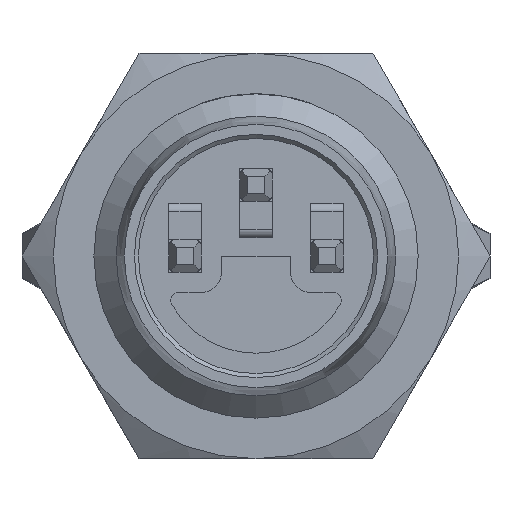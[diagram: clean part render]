
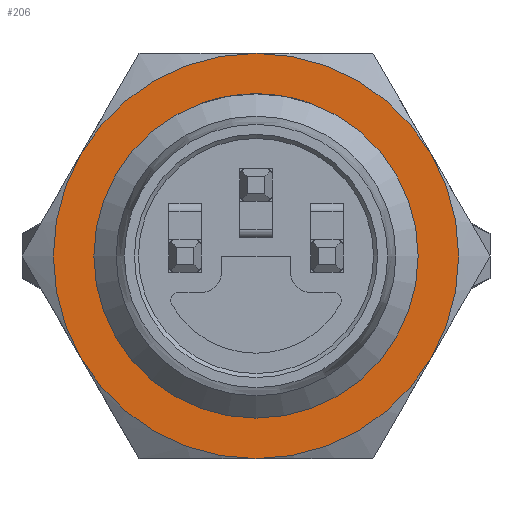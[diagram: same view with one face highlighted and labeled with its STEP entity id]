
A CAD part, left-side view. The second image highlights one B-rep face of the part: STEP entity #206.
In plain terms, the highlighted planar face has unit normal (-1, 0, 0) as drawn and (0, 0, -1) by its records, which use the part's own axes.
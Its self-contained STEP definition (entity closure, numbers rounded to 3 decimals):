
#206 = ADVANCED_FACE( '', ( #451, #452 ), #453, .F. );
#451 = FACE_BOUND( '', #703, .T. );
#452 = FACE_OUTER_BOUND( '', #704, .T. );
#453 = PLANE( '', #705 );
#473 = EDGE_CURVE( '', #725, #725, #726, .T. );
#703 = EDGE_LOOP( '', ( #1520 ) );
#704 = EDGE_LOOP( '', ( #1521, #1522, #1523, #1524, #1525, #1526 ) );
#705 = AXIS2_PLACEMENT_3D( '', #1527, #1528, #1529 );
#725 = VERTEX_POINT( '', #1594 );
#726 = CIRCLE( '', #1595, 3.73 );
#1520 = ORIENTED_EDGE( '', *, *, #473, .T. );
#1521 = ORIENTED_EDGE( '', *, *, #1848, .F. );
#1522 = ORIENTED_EDGE( '', *, *, #1849, .F. );
#1523 = ORIENTED_EDGE( '', *, *, #1850, .F. );
#1524 = ORIENTED_EDGE( '', *, *, #1826, .F. );
#1525 = ORIENTED_EDGE( '', *, *, #1851, .F. );
#1526 = ORIENTED_EDGE( '', *, *, #1852, .F. );
#1527 = CARTESIAN_POINT( '', ( -5., 2.887, -1. ) );
#1528 = DIRECTION( '', ( 0., 0., 1. ) );
#1529 = DIRECTION( '', ( 1., 0., 0. ) );
#1594 = CARTESIAN_POINT( '', ( 3.73, 0., -1. ) );
#1595 = AXIS2_PLACEMENT_3D( '', #1861, #1862, #1863 );
#1826 = EDGE_CURVE( '', #2255, #2257, #2258, .T. );
#1848 = EDGE_CURVE( '', #2291, #2243, #2292, .T. );
#1849 = EDGE_CURVE( '', #2293, #2291, #2294, .T. );
#1850 = EDGE_CURVE( '', #2257, #2293, #2295, .T. );
#1851 = EDGE_CURVE( '', #2296, #2255, #2297, .T. );
#1852 = EDGE_CURVE( '', #2243, #2296, #2298, .T. );
#1861 = CARTESIAN_POINT( '', ( 0., 0., -1. ) );
#1862 = DIRECTION( '', ( 0., 0., 1. ) );
#1863 = DIRECTION( '', ( 1., 0., 0. ) );
#2243 = VERTEX_POINT( '', #2911 );
#2255 = VERTEX_POINT( '', #2945 );
#2257 = VERTEX_POINT( '', #2950 );
#2258 = CIRCLE( '', #2951, 5. );
#2291 = VERTEX_POINT( '', #3049 );
#2292 = CIRCLE( '', #3050, 5. );
#2293 = VERTEX_POINT( '', #3051 );
#2294 = CIRCLE( '', #3052, 5. );
#2295 = CIRCLE( '', #3053, 5. );
#2296 = VERTEX_POINT( '', #3054 );
#2297 = CIRCLE( '', #3055, 5. );
#2298 = CIRCLE( '', #3056, 5. );
#2911 = CARTESIAN_POINT( '', ( -2.5, 4.33, -1. ) );
#2945 = CARTESIAN_POINT( '', ( -2.5, -4.33, -1. ) );
#2950 = CARTESIAN_POINT( '', ( 2.5, -4.33, -1. ) );
#2951 = AXIS2_PLACEMENT_3D( '', #3463, #3464, #3465 );
#3049 = CARTESIAN_POINT( '', ( 2.5, 4.33, -1. ) );
#3050 = AXIS2_PLACEMENT_3D( '', #3487, #3488, #3489 );
#3051 = CARTESIAN_POINT( '', ( 5., 0., -1. ) );
#3052 = AXIS2_PLACEMENT_3D( '', #3490, #3491, #3492 );
#3053 = AXIS2_PLACEMENT_3D( '', #3493, #3494, #3495 );
#3054 = CARTESIAN_POINT( '', ( -5., 0., -1. ) );
#3055 = AXIS2_PLACEMENT_3D( '', #3496, #3497, #3498 );
#3056 = AXIS2_PLACEMENT_3D( '', #3499, #3500, #3501 );
#3463 = CARTESIAN_POINT( '', ( 0., 0., -1. ) );
#3464 = DIRECTION( '', ( 0., 0., 1. ) );
#3465 = DIRECTION( '', ( 1., 0., 0. ) );
#3487 = CARTESIAN_POINT( '', ( 0., 0., -1. ) );
#3488 = DIRECTION( '', ( 0., 0., 1. ) );
#3489 = DIRECTION( '', ( 1., 0., 0. ) );
#3490 = CARTESIAN_POINT( '', ( 0., 0., -1. ) );
#3491 = DIRECTION( '', ( 0., 0., 1. ) );
#3492 = DIRECTION( '', ( 1., 0., 0. ) );
#3493 = CARTESIAN_POINT( '', ( 0., 0., -1. ) );
#3494 = DIRECTION( '', ( 0., 0., 1. ) );
#3495 = DIRECTION( '', ( 1., 0., 0. ) );
#3496 = CARTESIAN_POINT( '', ( 0., 0., -1. ) );
#3497 = DIRECTION( '', ( 0., 0., 1. ) );
#3498 = DIRECTION( '', ( 1., 0., 0. ) );
#3499 = CARTESIAN_POINT( '', ( 0., 0., -1. ) );
#3500 = DIRECTION( '', ( 0., 0., 1. ) );
#3501 = DIRECTION( '', ( 1., 0., 0. ) );
